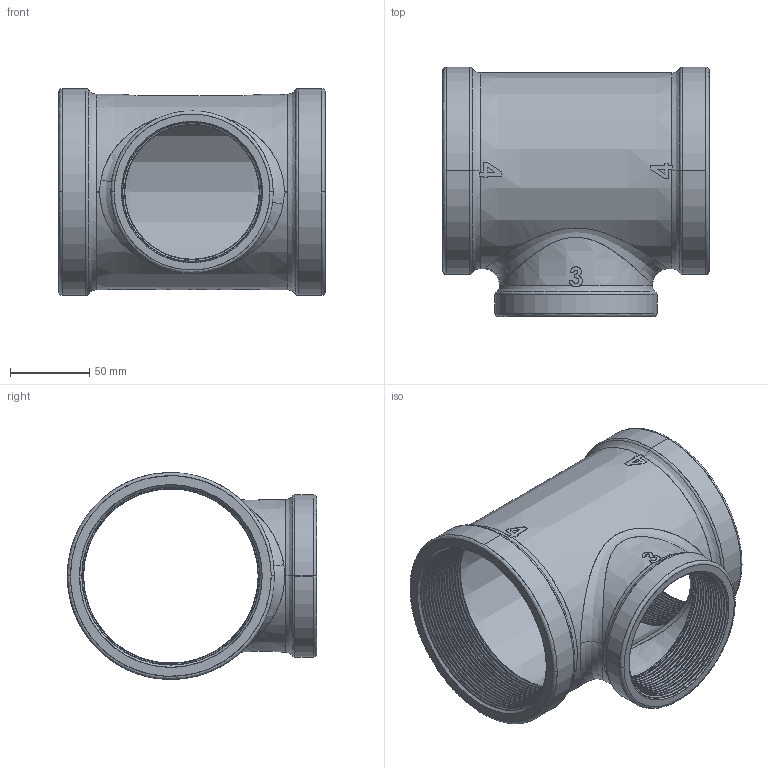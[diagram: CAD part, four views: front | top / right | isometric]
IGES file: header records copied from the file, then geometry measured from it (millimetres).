
Start section: SolidWorks IGES file using analytic representation for surfaces
Global section: file name: C:\Users\Joel Rosa\Desktop\Tubulação\12-45-XXX\12-45-060.IGS; native system: SolidWorks 2011; preprocessor: SolidWorks 2011; author: Joel Rosa; date: 121212.235125; units: millimetre
Bounding box: 168 x 157.3 x 130.6 mm (x, y, z)
Surface area: 167095.8 mm2 (no closed solid volume)
Topology: 0 solids, 0 shells, 606 faces, 4963 edges, 4963 vertices
Faces by surface type: bspline 397, revolution 209
